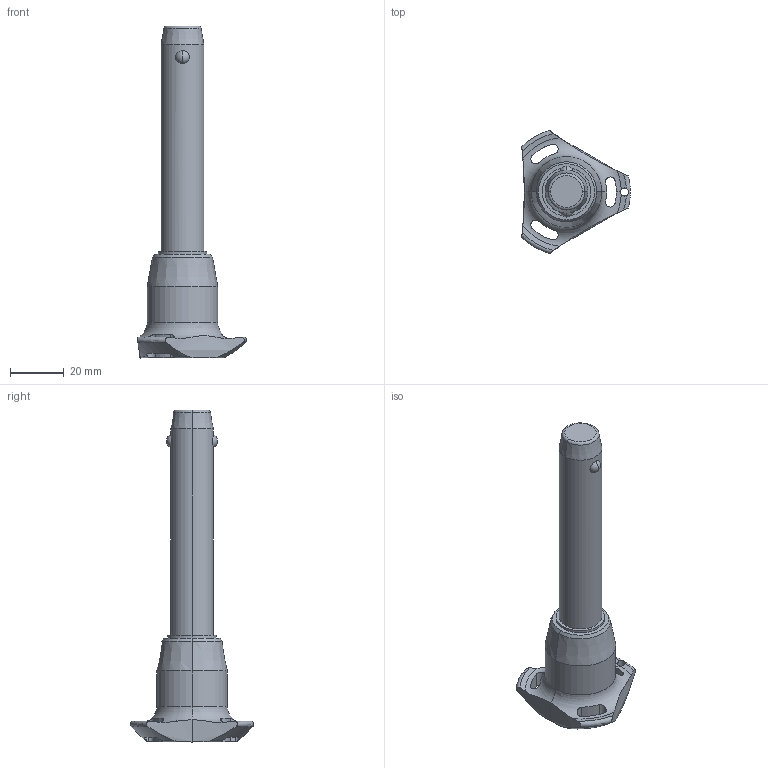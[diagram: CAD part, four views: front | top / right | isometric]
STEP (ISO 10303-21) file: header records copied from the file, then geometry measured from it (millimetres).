
FILE_DESCRIPTION (( 'STEP AP203' ), '1' );
FILE_NAME ('QR1704.M16-070-S.step', '2025-11-12T09:30:13', ( '' ), ( '' ), 'SwSTEP 2.0', 'SolidWorks 2019', '' );
FILE_SCHEMA (( 'CONFIG_CONTROL_DESIGN' ));
Length unit declared in the file: millimetre
Products named in the file (1): QR1704.M16-070-S
Bounding box: 40.5 x 45.88 x 123.7 mm (x, y, z)
Volume: 39171 mm3; surface area: 10177.1 mm2
Topology: 1 solids, 1 shells, 65 faces, 178 edges, 113 vertices
Faces by surface type: cylinder 30, cone 14, torus 11, sphere 6, plane 4
Entity records: 2870 total; most frequent: CARTESIAN_POINT 1181, ORIENTED_EDGE 356, DIRECTION 329, EDGE_CURVE 178, AXIS2_PLACEMENT_3D 147, VERTEX_POINT 113, CIRCLE 81, EDGE_LOOP 71
